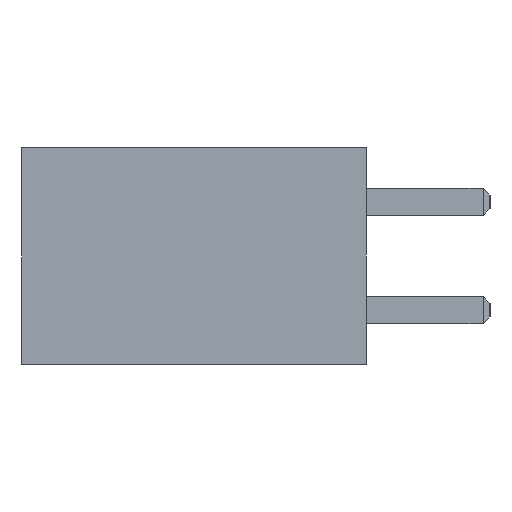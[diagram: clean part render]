
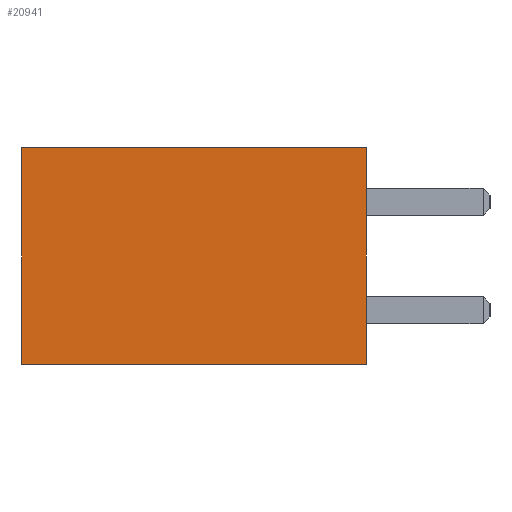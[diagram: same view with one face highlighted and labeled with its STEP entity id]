
A CAD part, left-side view. The second image highlights one B-rep face of the part: STEP entity #20941.
In plain terms, the highlighted planar face has unit normal (-1, 0, 0).
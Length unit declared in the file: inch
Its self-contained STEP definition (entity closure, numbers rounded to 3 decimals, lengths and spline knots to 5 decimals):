
#502 = ORIENTED_EDGE ( 'NONE', *, *, #2075, .F. ) ;
#1583 = CARTESIAN_POINT ( 'NONE',  ( -0.00585, 0.235, 0. ) ) ;
#2075 = EDGE_CURVE ( 'NONE', #14331, #25493, #13172, .T. ) ;
#2696 = EDGE_CURVE ( 'NONE', #9037, #3780, #6400, .T. ) ;
#2873 = CARTESIAN_POINT ( 'NONE',  ( -0.00585, 0.235, 0.15748 ) ) ;
#3780 = VERTEX_POINT ( 'NONE', #1583 ) ;
#4292 = AXIS2_PLACEMENT_3D ( 'NONE', #13278, #6516, #13514 ) ;
#5238 = CARTESIAN_POINT ( 'NONE',  ( -0.00585, 0.235, 0.15748 ) ) ;
#5554 = DIRECTION ( 'NONE',  ( 0., 0., 1. ) ) ;
#5577 = ORIENTED_EDGE ( 'NONE', *, *, #22139, .F. ) ;
#5618 = PLANE ( 'NONE',  #4292 ) ;
#6400 = LINE ( 'NONE', #6584, #10049 ) ;
#6491 = CARTESIAN_POINT ( 'NONE',  ( -0.00585, -0.015, 0.15748 ) ) ;
#6516 = DIRECTION ( 'NONE',  ( -1., 0., 0. ) ) ;
#6584 = CARTESIAN_POINT ( 'NONE',  ( -0.00585, 0.235, 0. ) ) ;
#7755 = DIRECTION ( 'NONE',  ( 0., -1., 0. ) ) ;
#9037 = VERTEX_POINT ( 'NONE', #12446 ) ;
#10049 = VECTOR ( 'NONE', #18323, 39.37008 ) ;
#10364 = ORIENTED_EDGE ( 'NONE', *, *, #2696, .F. ) ;
#12446 = CARTESIAN_POINT ( 'NONE',  ( -0.00585, -0.015, 0. ) ) ;
#12522 = VECTOR ( 'NONE', #24359, 39.37008 ) ;
#12603 = FACE_OUTER_BOUND ( 'NONE', #17358, .T. ) ;
#13172 = LINE ( 'NONE', #22256, #14659 ) ;
#13278 = CARTESIAN_POINT ( 'NONE',  ( -0.00585, -0.015, 0. ) ) ;
#13514 = DIRECTION ( 'NONE',  ( 0., 0., 1. ) ) ;
#14265 = CARTESIAN_POINT ( 'NONE',  ( -0.00585, -0.015, 0. ) ) ;
#14331 = VERTEX_POINT ( 'NONE', #2873 ) ;
#14659 = VECTOR ( 'NONE', #7755, 39.37008 ) ;
#15026 = VECTOR ( 'NONE', #5554, 39.37008 ) ;
#17358 = EDGE_LOOP ( 'NONE', ( #10364, #23500, #502, #5577 ) ) ;
#18323 = DIRECTION ( 'NONE',  ( 0., 1., 0. ) ) ;
#20213 = EDGE_CURVE ( 'NONE', #25493, #9037, #21656, .T. ) ;
#20941 = ADVANCED_FACE ( 'NONE', ( #12603 ), #5618, .T. ) ;
#21656 = LINE ( 'NONE', #14265, #12522 ) ;
#22139 = EDGE_CURVE ( 'NONE', #3780, #14331, #23229, .T. ) ;
#22256 = CARTESIAN_POINT ( 'NONE',  ( -0.00585, 0.235, 0.15748 ) ) ;
#23229 = LINE ( 'NONE', #5238, #15026 ) ;
#23500 = ORIENTED_EDGE ( 'NONE', *, *, #20213, .F. ) ;
#24359 = DIRECTION ( 'NONE',  ( 0., 0., -1. ) ) ;
#25493 = VERTEX_POINT ( 'NONE', #6491 ) ;
